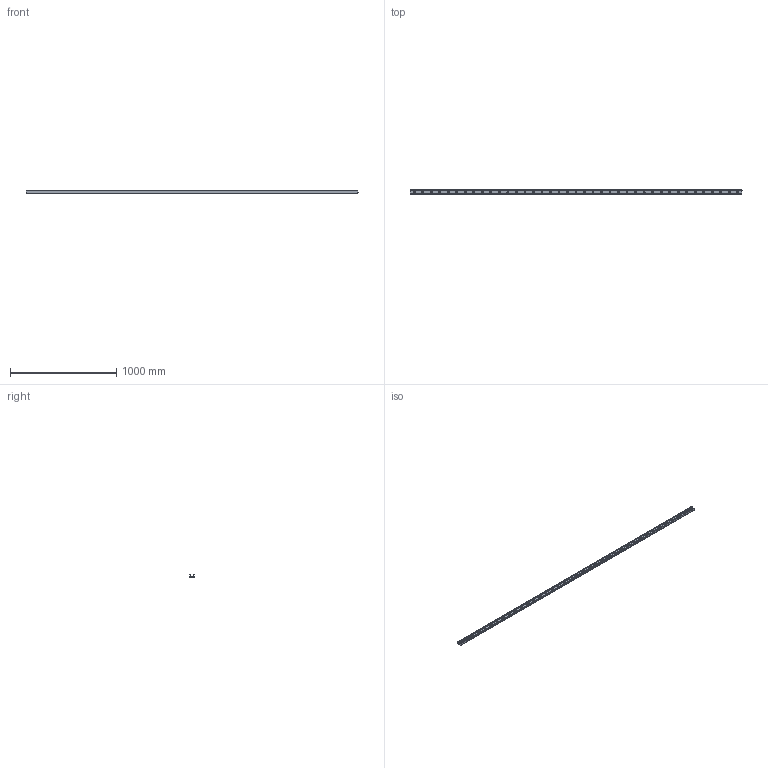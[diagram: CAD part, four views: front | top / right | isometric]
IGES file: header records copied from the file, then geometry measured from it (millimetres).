
Start section: SolidWorks IGES file using analytic representation for surfaces
Global section: file name: C:\Users\IanO\Desktop\43\L1943.ULV43_v2_20180121_IGES\L1943.ULV43-3120.igs; native system: SolidWorks 2017; preprocessor: SolidWorks 2017; author: IanO; date: 190121.090501; units: millimetre
Bounding box: 3120 x 43 x 21 mm (x, y, z)
Surface area: 484060.1 mm2 (no closed solid volume)
Topology: 0 solids, 0 shells, 182 faces, 3414 edges, 3414 vertices
Faces by surface type: revolution 169, bspline 13
